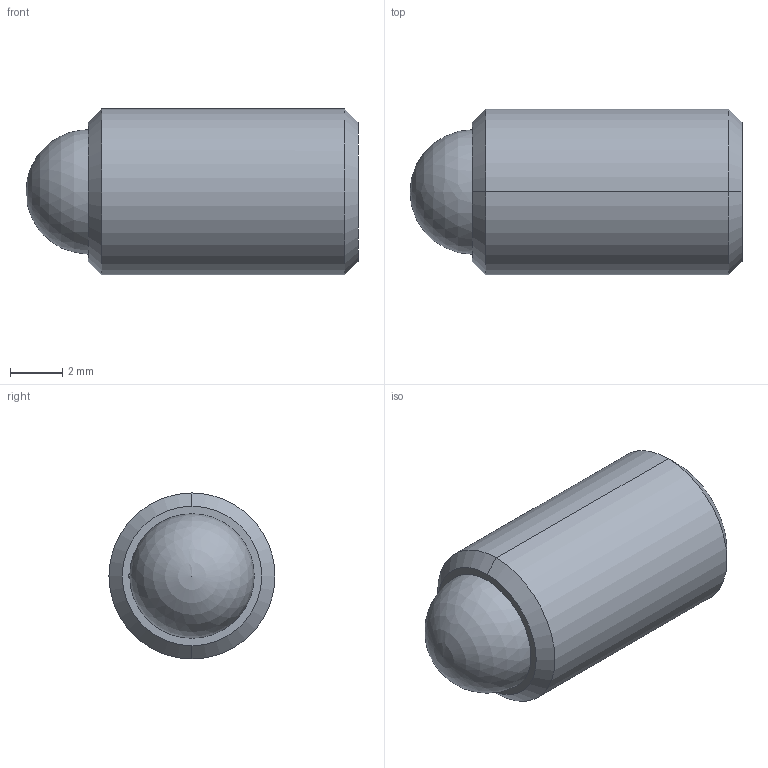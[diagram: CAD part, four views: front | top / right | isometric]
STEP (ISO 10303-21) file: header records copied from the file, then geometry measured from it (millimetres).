
FILE_DESCRIPTION (( 'STEP AP214' ), '1' );
FILE_NAME ('TS250-80-500-AA-HV.STEP', '2013-05-10T14:36:19', ( 'workpc' ), ( 'Microsoft' ), 'SwSTEP 2.0', 'SolidWorks 2013', '' );
FILE_SCHEMA (( 'AUTOMOTIVE_DESIGN' ));
Length unit declared in the file: inch
Products named in the file (1): TS250-80-500-AA-HV
Bounding box: 12.7 x 6.35 x 6.35 mm (x, y, z)
Volume: 328.2 mm3; surface area: 379.4 mm2
Topology: 2 solids, 2 shells, 24 faces, 57 edges, 37 vertices
Faces by surface type: plane 10, cylinder 8, cone 4, sphere 2
Entity records: 739 total; most frequent: DIRECTION 124, CARTESIAN_POINT 111, ORIENTED_EDGE 104, EDGE_CURVE 52, AXIS2_PLACEMENT_3D 47, VERTEX_POINT 34, LINE 30, VECTOR 30
